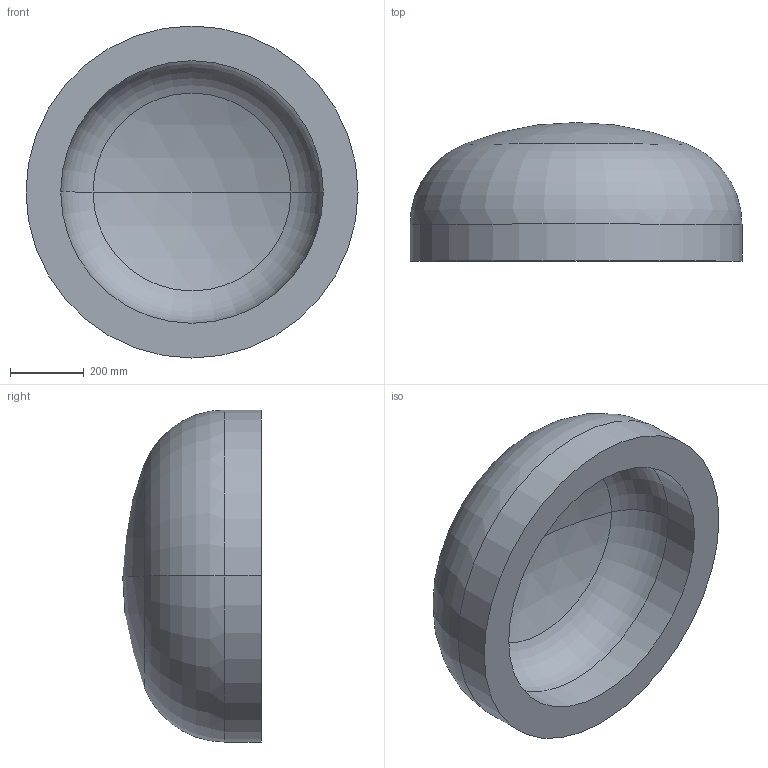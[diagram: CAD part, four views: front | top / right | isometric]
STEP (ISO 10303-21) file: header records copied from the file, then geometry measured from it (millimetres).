
FILE_DESCRIPTION (( 'STEP AP203' ), '1' );
FILE_NAME ('DIN 28013 Korbbogenform_-_Boden DIN 28013 - 900 x 100 - I - s=94.step', '2016-07-01T08:37:56', ( '' ), ( '' ), 'SwSTEP 2.0', 'SolidWorks 2013', '' );
FILE_SCHEMA (( 'CONFIG_CONTROL_DESIGN' ));
Length unit declared in the file: millimetre
Products named in the file (1): DIN 28013 Korbbogenform_-_Boden DIN 28013 - 900 x 100 - I - s=94
Bounding box: 900 x 375.72 x 900 mm (x, y, z)
Volume: 96767715.1 mm3; surface area: 2315413 mm2
Topology: 1 solids, 1 shells, 13 faces, 24 edges, 14 vertices
Faces by surface type: torus 4, cylinder 4, sphere 4, plane 1
Entity records: 407 total; most frequent: DIRECTION 72, CARTESIAN_POINT 52, ORIENTED_EDGE 48, AXIS2_PLACEMENT_3D 34, EDGE_CURVE 24, CIRCLE 20, VERTEX_POINT 14, EDGE_LOOP 14
